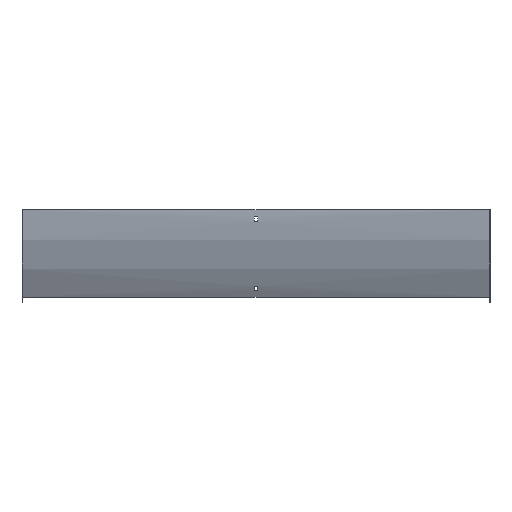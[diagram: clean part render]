
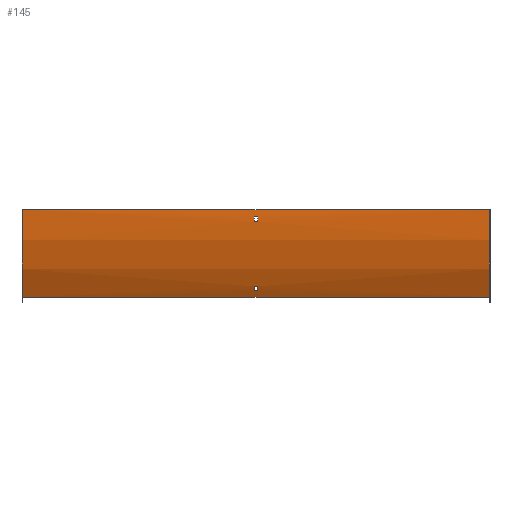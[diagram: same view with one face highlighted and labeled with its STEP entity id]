
A CAD part, front view. The second image highlights one B-rep face of the part: STEP entity #145.
In plain terms, the highlighted cylindrical face has radius 300 mm (diameter 600 mm), a partial arc.
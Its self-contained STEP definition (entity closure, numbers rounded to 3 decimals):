
#2 = DIRECTION ( 'NONE',  ( 1., 0., 0. ) ) ;
#10 = EDGE_CURVE ( 'NONE', #22, #120, #253, .T. ) ;
#22 = VERTEX_POINT ( 'NONE', #164 ) ;
#36 = ORIENTED_EDGE ( 'NONE', *, *, #313, .T. ) ;
#40 = DIRECTION ( 'NONE',  ( 0., 0., 1. ) ) ;
#42 = VECTOR ( 'NONE', #345, 1000. ) ;
#59 = VERTEX_POINT ( 'NONE', #124 ) ;
#62 = DIRECTION ( 'NONE',  ( 1., 0., 0. ) ) ;
#64 = CARTESIAN_POINT ( 'NONE',  ( -400., -1.5, 0. ) ) ;
#73 = EDGE_CURVE ( 'NONE', #59, #334, #271, .T. ) ;
#80 = DIRECTION ( 'NONE',  ( 0., 0., 1. ) ) ;
#82 = DIRECTION ( 'NONE',  ( -1., 0., 0. ) ) ;
#86 = LINE ( 'NONE', #464, #422 ) ;
#113 = DIRECTION ( 'NONE',  ( 1., 0., 0. ) ) ;
#116 = VERTEX_POINT ( 'NONE', #213 ) ;
#119 = LINE ( 'NONE', #256, #308 ) ;
#120 = VERTEX_POINT ( 'NONE', #499 ) ;
#122 = EDGE_CURVE ( 'NONE', #547, #134, #390, .T. ) ;
#124 = CARTESIAN_POINT ( 'NONE',  ( -400., 38.692, -150. ) ) ;
#127 = DIRECTION ( 'NONE',  ( -1., 0., 0. ) ) ;
#128 = FACE_OUTER_BOUND ( 'NONE', #513, .T. ) ;
#129 = CIRCLE ( 'NONE', #180, 300. ) ;
#132 = EDGE_LOOP ( 'NONE', ( #537, #208, #375, #473 ) ) ;
#133 = DIRECTION ( 'NONE',  ( -1., 0., 0. ) ) ;
#134 = VERTEX_POINT ( 'NONE', #447 ) ;
#138 = VERTEX_POINT ( 'NONE', #450 ) ;
#139 = FACE_BOUND ( 'NONE', #132, .T. ) ;
#141 = CARTESIAN_POINT ( 'NONE',  ( 3.25, 32.9, -139.488 ) ) ;
#145 = ADVANCED_FACE ( 'NONE', ( #139, #128, #174 ), #490, .T. ) ;
#147 = CARTESIAN_POINT ( 'NONE',  ( 401.5, -0.764, -21. ) ) ;
#155 = LINE ( 'NONE', #523, #42 ) ;
#156 = ORIENTED_EDGE ( 'NONE', *, *, #122, .T. ) ;
#157 = VECTOR ( 'NONE', #602, 1000. ) ;
#164 = CARTESIAN_POINT ( 'NONE',  ( 400., 38.692, -150. ) ) ;
#170 = CIRCLE ( 'NONE', #401, 300. ) ;
#174 = FACE_BOUND ( 'NONE', #583, .T. ) ;
#180 = AXIS2_PLACEMENT_3D ( 'NONE', #388, #561, #520 ) ;
#186 = ORIENTED_EDGE ( 'NONE', *, *, #338, .F. ) ;
#188 = AXIS2_PLACEMENT_3D ( 'NONE', #432, #113, #479 ) ;
#196 = LINE ( 'NONE', #518, #606 ) ;
#208 = ORIENTED_EDGE ( 'NONE', *, *, #245, .F. ) ;
#213 = CARTESIAN_POINT ( 'NONE',  ( -3.25, -1.26, -12. ) ) ;
#216 = EDGE_CURVE ( 'NONE', #267, #547, #86, .T. ) ;
#218 = VERTEX_POINT ( 'NONE', #514 ) ;
#223 = EDGE_CURVE ( 'NONE', #116, #319, #170, .T. ) ;
#234 = CARTESIAN_POINT ( 'NONE',  ( -400., 298.5, 0. ) ) ;
#245 = EDGE_CURVE ( 'NONE', #138, #116, #511, .T. ) ;
#246 = ORIENTED_EDGE ( 'NONE', *, *, #73, .F. ) ;
#253 = CIRCLE ( 'NONE', #486, 300. ) ;
#256 = CARTESIAN_POINT ( 'NONE',  ( 401.5, 28.83, -131.446 ) ) ;
#264 = EDGE_CURVE ( 'NONE', #319, #218, #500, .T. ) ;
#267 = VERTEX_POINT ( 'NONE', #141 ) ;
#271 = CIRCLE ( 'NONE', #491, 300. ) ;
#295 = DIRECTION ( 'NONE',  ( -1., 0., 0. ) ) ;
#300 = ORIENTED_EDGE ( 'NONE', *, *, #399, .T. ) ;
#308 = VECTOR ( 'NONE', #62, 1000. ) ;
#313 = EDGE_CURVE ( 'NONE', #361, #267, #449, .T. ) ;
#317 = ORIENTED_EDGE ( 'NONE', *, *, #10, .T. ) ;
#319 = VERTEX_POINT ( 'NONE', #393 ) ;
#324 = CARTESIAN_POINT ( 'NONE',  ( 401.5, 298.5, 0. ) ) ;
#328 = ORIENTED_EDGE ( 'NONE', *, *, #504, .T. ) ;
#334 = VERTEX_POINT ( 'NONE', #64 ) ;
#338 = EDGE_CURVE ( 'NONE', #22, #59, #196, .T. ) ;
#345 = DIRECTION ( 'NONE',  ( -1., 0., 0. ) ) ;
#356 = VECTOR ( 'NONE', #2, 1000. ) ;
#361 = VERTEX_POINT ( 'NONE', #581 ) ;
#370 = DIRECTION ( 'NONE',  ( 0., 0., 1. ) ) ;
#375 = ORIENTED_EDGE ( 'NONE', *, *, #444, .F. ) ;
#383 = DIRECTION ( 'NONE',  ( -1., 0., 0. ) ) ;
#388 = CARTESIAN_POINT ( 'NONE',  ( 3.25, 298.5, 0. ) ) ;
#390 = CIRCLE ( 'NONE', #466, 300. ) ;
#393 = CARTESIAN_POINT ( 'NONE',  ( -3.25, -0.764, -21. ) ) ;
#395 = CARTESIAN_POINT ( 'NONE',  ( 400., 298.5, 0. ) ) ;
#399 = EDGE_CURVE ( 'NONE', #134, #361, #119, .T. ) ;
#401 = AXIS2_PLACEMENT_3D ( 'NONE', #549, #459, #40 ) ;
#402 = CARTESIAN_POINT ( 'NONE',  ( -3.25, 298.5, 0. ) ) ;
#422 = VECTOR ( 'NONE', #554, 1000. ) ;
#426 = AXIS2_PLACEMENT_3D ( 'NONE', #324, #133, #80 ) ;
#432 = CARTESIAN_POINT ( 'NONE',  ( 3.25, 298.5, 0. ) ) ;
#444 = EDGE_CURVE ( 'NONE', #218, #138, #129, .T. ) ;
#447 = CARTESIAN_POINT ( 'NONE',  ( -3.25, 28.83, -131.446 ) ) ;
#449 = CIRCLE ( 'NONE', #188, 300. ) ;
#450 = CARTESIAN_POINT ( 'NONE',  ( 3.25, -1.26, -12. ) ) ;
#459 = DIRECTION ( 'NONE',  ( 1., 0., 0. ) ) ;
#464 = CARTESIAN_POINT ( 'NONE',  ( 401.5, 32.9, -139.488 ) ) ;
#466 = AXIS2_PLACEMENT_3D ( 'NONE', #402, #82, #588 ) ;
#473 = ORIENTED_EDGE ( 'NONE', *, *, #264, .F. ) ;
#479 = DIRECTION ( 'NONE',  ( 0., 0., 1. ) ) ;
#486 = AXIS2_PLACEMENT_3D ( 'NONE', #395, #383, #582 ) ;
#490 = CYLINDRICAL_SURFACE ( 'NONE', #426, 300. ) ;
#491 = AXIS2_PLACEMENT_3D ( 'NONE', #234, #127, #370 ) ;
#499 = CARTESIAN_POINT ( 'NONE',  ( 400., -1.5, 0. ) ) ;
#500 = LINE ( 'NONE', #147, #356 ) ;
#504 = EDGE_CURVE ( 'NONE', #120, #334, #155, .T. ) ;
#511 = LINE ( 'NONE', #552, #157 ) ;
#513 = EDGE_LOOP ( 'NONE', ( #246, #186, #317, #328 ) ) ;
#514 = CARTESIAN_POINT ( 'NONE',  ( 3.25, -0.764, -21. ) ) ;
#515 = CARTESIAN_POINT ( 'NONE',  ( -3.25, 32.9, -139.488 ) ) ;
#518 = CARTESIAN_POINT ( 'NONE',  ( 400., 38.692, -150. ) ) ;
#520 = DIRECTION ( 'NONE',  ( 0., 0., -1. ) ) ;
#523 = CARTESIAN_POINT ( 'NONE',  ( 400., -1.5, 0. ) ) ;
#537 = ORIENTED_EDGE ( 'NONE', *, *, #223, .F. ) ;
#547 = VERTEX_POINT ( 'NONE', #515 ) ;
#549 = CARTESIAN_POINT ( 'NONE',  ( -3.25, 298.5, 0. ) ) ;
#552 = CARTESIAN_POINT ( 'NONE',  ( 401.5, -1.26, -12. ) ) ;
#554 = DIRECTION ( 'NONE',  ( -1., 0., 0. ) ) ;
#561 = DIRECTION ( 'NONE',  ( -1., 0., 0. ) ) ;
#581 = CARTESIAN_POINT ( 'NONE',  ( 3.25, 28.83, -131.446 ) ) ;
#582 = DIRECTION ( 'NONE',  ( 0., 0., 1. ) ) ;
#583 = EDGE_LOOP ( 'NONE', ( #590, #156, #300, #36 ) ) ;
#588 = DIRECTION ( 'NONE',  ( 0., 0., -1. ) ) ;
#590 = ORIENTED_EDGE ( 'NONE', *, *, #216, .T. ) ;
#602 = DIRECTION ( 'NONE',  ( -1., 0., 0. ) ) ;
#606 = VECTOR ( 'NONE', #295, 1000. ) ;
